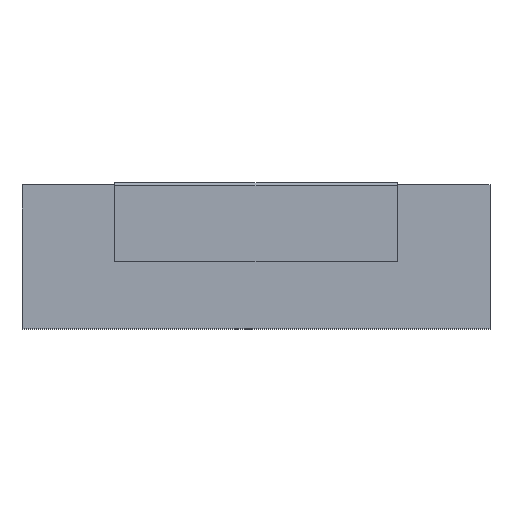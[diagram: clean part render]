
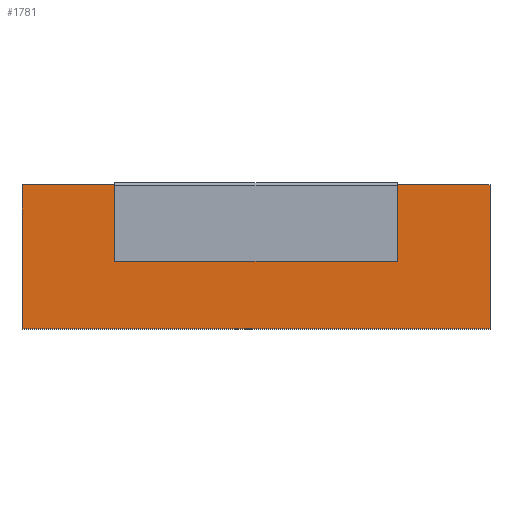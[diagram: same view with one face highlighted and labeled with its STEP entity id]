
A CAD part, top view. The second image highlights one B-rep face of the part: STEP entity #1781.
In plain terms, the highlighted planar face has unit normal (0, 0, 1).
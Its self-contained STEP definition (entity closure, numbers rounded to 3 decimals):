
#116 = EDGE_LOOP ( 'NONE', ( #452, #453, #454, #455, #456, #457, #458, #459 ) ) ;
#452 = ORIENTED_EDGE ( 'NONE', *, *, #1634, .T. ) ;
#453 = ORIENTED_EDGE ( 'NONE', *, *, #1636, .T. ) ;
#454 = ORIENTED_EDGE ( 'NONE', *, *, #1624, .T. ) ;
#455 = ORIENTED_EDGE ( 'NONE', *, *, #1627, .T. ) ;
#456 = ORIENTED_EDGE ( 'NONE', *, *, #1630, .T. ) ;
#457 = ORIENTED_EDGE ( 'NONE', *, *, #1631, .T. ) ;
#458 = ORIENTED_EDGE ( 'NONE', *, *, #1632, .T. ) ;
#459 = ORIENTED_EDGE ( 'NONE', *, *, #1618, .T. ) ;
#816 = CARTESIAN_POINT ( 'NONE',  ( 0., 29.5, 23.6 ) ) ;
#817 = DIRECTION ( 'NONE',  ( -1., 0., 0. ) ) ;
#829 = CARTESIAN_POINT ( 'NONE',  ( 19., 0., 23.6 ) ) ;
#830 = DIRECTION ( 'NONE',  ( 0., 1., 0. ) ) ;
#835 = CARTESIAN_POINT ( 'NONE',  ( 0., 29.5, 23.6 ) ) ;
#836 = DIRECTION ( 'NONE',  ( -1., 0., 0. ) ) ;
#841 = CARTESIAN_POINT ( 'NONE',  ( 0., 0., 23.6 ) ) ;
#842 = DIRECTION ( 'NONE',  ( 0., -1., 0. ) ) ;
#843 = CARTESIAN_POINT ( 'NONE',  ( 0., 0., 23.6 ) ) ;
#844 = DIRECTION ( 'NONE',  ( 1., 0., 0. ) ) ;
#845 = CARTESIAN_POINT ( 'NONE',  ( 96., 0., 23.6 ) ) ;
#846 = DIRECTION ( 'NONE',  ( 0., 1., 0. ) ) ;
#849 = CARTESIAN_POINT ( 'NONE',  ( 77., 0., 23.6 ) ) ;
#850 = DIRECTION ( 'NONE',  ( 0., -1., 0. ) ) ;
#854 = CARTESIAN_POINT ( 'NONE',  ( 0., 13.8, 23.6 ) ) ;
#855 = DIRECTION ( 'NONE',  ( -1., 0., 0. ) ) ;
#1213 = VERTEX_POINT ( 'NONE', #1388 ) ;
#1215 = VERTEX_POINT ( 'NONE', #1386 ) ;
#1216 = VERTEX_POINT ( 'NONE', #1385 ) ;
#1217 = VERTEX_POINT ( 'NONE', #1384 ) ;
#1218 = VERTEX_POINT ( 'NONE', #1383 ) ;
#1226 = VERTEX_POINT ( 'NONE', #1375 ) ;
#1227 = VERTEX_POINT ( 'NONE', #1374 ) ;
#1232 = VERTEX_POINT ( 'NONE', #1355 ) ;
#1355 = CARTESIAN_POINT ( 'NONE',  ( 77., 13.8, 23.6 ) ) ;
#1374 = CARTESIAN_POINT ( 'NONE',  ( 19., 13.8, 23.6 ) ) ;
#1375 = CARTESIAN_POINT ( 'NONE',  ( 19., 29.5, 23.6 ) ) ;
#1383 = CARTESIAN_POINT ( 'NONE',  ( 0., 0., 23.6 ) ) ;
#1384 = CARTESIAN_POINT ( 'NONE',  ( 77., 29.5, 23.6 ) ) ;
#1385 = CARTESIAN_POINT ( 'NONE',  ( 96., 0., 23.6 ) ) ;
#1386 = CARTESIAN_POINT ( 'NONE',  ( 96., 29.5, 23.6 ) ) ;
#1388 = CARTESIAN_POINT ( 'NONE',  ( 0., 29.5, 23.6 ) ) ;
#1618 = EDGE_CURVE ( 'NONE', #1215, #1217, #2015, .T. ) ;
#1624 = EDGE_CURVE ( 'NONE', #1227, #1226, #2027, .T. ) ;
#1627 = EDGE_CURVE ( 'NONE', #1226, #1213, #2033, .T. ) ;
#1630 = EDGE_CURVE ( 'NONE', #1213, #1218, #2039, .T. ) ;
#1631 = EDGE_CURVE ( 'NONE', #1218, #1216, #2041, .T. ) ;
#1632 = EDGE_CURVE ( 'NONE', #1216, #1215, #2043, .T. ) ;
#1634 = EDGE_CURVE ( 'NONE', #1217, #1232, #2047, .T. ) ;
#1636 = EDGE_CURVE ( 'NONE', #1232, #1227, #2051, .T. ) ;
#1781 = ADVANCED_FACE ( 'NONE', ( #2167 ), #2280, .T. ) ;
#2015 = LINE ( 'NONE', #816, #2016 ) ;
#2016 = VECTOR ( 'NONE', #817, 1000. ) ;
#2027 = LINE ( 'NONE', #829, #2028 ) ;
#2028 = VECTOR ( 'NONE', #830, 1000. ) ;
#2033 = LINE ( 'NONE', #835, #2034 ) ;
#2034 = VECTOR ( 'NONE', #836, 1000. ) ;
#2039 = LINE ( 'NONE', #841, #2040 ) ;
#2040 = VECTOR ( 'NONE', #842, 1000. ) ;
#2041 = LINE ( 'NONE', #843, #2042 ) ;
#2042 = VECTOR ( 'NONE', #844, 1000. ) ;
#2043 = LINE ( 'NONE', #845, #2044 ) ;
#2044 = VECTOR ( 'NONE', #846, 1000. ) ;
#2047 = LINE ( 'NONE', #849, #2048 ) ;
#2048 = VECTOR ( 'NONE', #850, 1000. ) ;
#2051 = LINE ( 'NONE', #854, #2052 ) ;
#2052 = VECTOR ( 'NONE', #855, 1000. ) ;
#2167 = FACE_OUTER_BOUND ( 'NONE', #116, .T. ) ;
#2238 = AXIS2_PLACEMENT_3D ( 'NONE', #2283, #2296, #2297 ) ;
#2280 = PLANE ( 'NONE',  #2238 ) ;
#2283 = CARTESIAN_POINT ( 'NONE',  ( 0., 0., 23.6 ) ) ;
#2296 = DIRECTION ( 'NONE',  ( 0., 0., 1. ) ) ;
#2297 = DIRECTION ( 'NONE',  ( 1., 0., 0. ) ) ;
